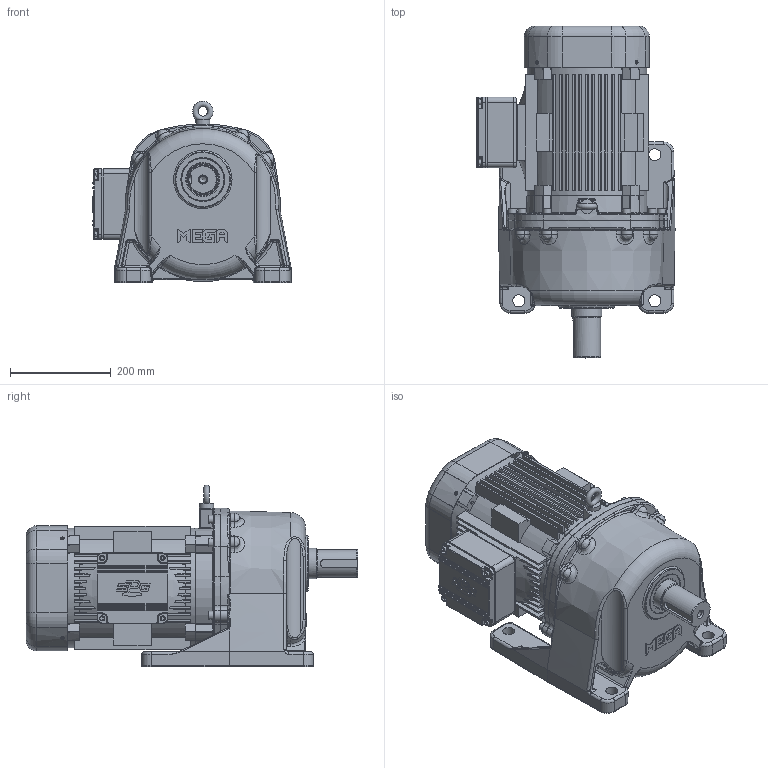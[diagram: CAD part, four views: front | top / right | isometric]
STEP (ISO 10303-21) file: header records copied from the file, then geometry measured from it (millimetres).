
FILE_DESCRIPTION(/* description */ (''),/* implementation_level */ '2;1');
FILE_NAME(/* name */ 'Z:\동력 3D 파일\PML205_5.5kW_3D.stp',/* time_stamp */ '2021-11-30T16:23:58+09:00',/* author */ ('jaebok'),/* organization */ (''),/* preprocessor_version */ 'ST-DEVELOPER v18.1',/* originating_system */ 'Autodesk Inventor 2022',/* authorisation */ '');
FILE_SCHEMA (('AUTOMOTIVE_DESIGN { 1 0 10303 214 3 1 1 }'));
Length unit declared in the file: millimetre
Products named in the file (1): 부품23
Bounding box: 392.9 x 658.5 x 360.5 mm (x, y, z)
Volume: 11214356.8 mm3; surface area: 2154397.4 mm2
Topology: 3 solids, 29 shells, 4291 faces, 10749 edges, 6540 vertices
Faces by surface type: plane 1340, bspline 1210, cylinder 967, torus 447, cone 171, sphere 156
Full cylindrical faces by diameter (mm): 4.134 x4, 4.917 x9, 5 x16, 6 x9, 6.5 x8, 6.647 x9, 7 x4, 8 x4, 8.376 x9, 9.5 x4, 10 x19, 10.106 x1, 12 x1, 13.2 x1, 13.835 x1, 15 x1, 16 x8, 20 x1, 24 x4, 28 x1, 32 x1, 34 x2, 44 x1, 45 x1, 50 x2, 55 x1, 60 x5, 62 x2, 67.5 x2, 69.5 x1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
Entity records: 157228 total; most frequent: CARTESIAN_POINT 57675, ORIENTED_EDGE 21142, DIRECTION 17800, EDGE_CURVE 10571, AXIS2_PLACEMENT_3D 6745, VERTEX_POINT 6538, EDGE_LOOP 4623, LINE 4310
